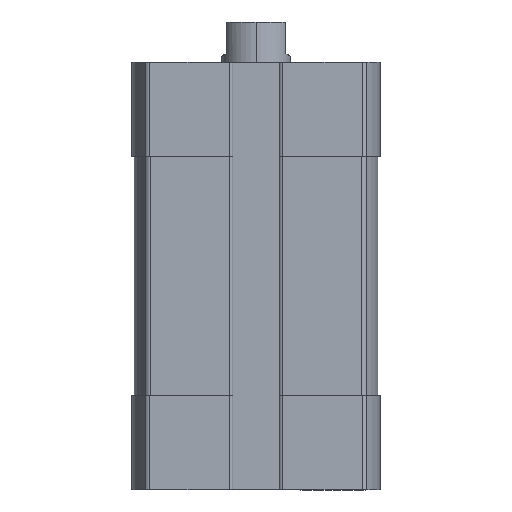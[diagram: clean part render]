
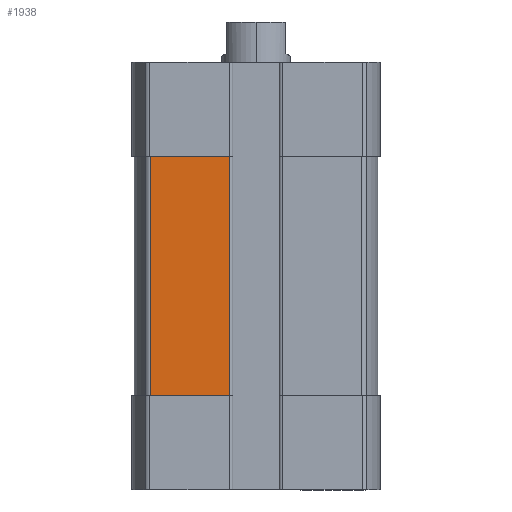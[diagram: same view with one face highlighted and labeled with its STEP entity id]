
A CAD part, left-side view. The second image highlights one B-rep face of the part: STEP entity #1938.
In plain terms, the highlighted planar face has unit normal (-1, 0, 0).
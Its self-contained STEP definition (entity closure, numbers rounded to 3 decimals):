
#521 = VERTEX_POINT ( 'NONE', #7103 ) ;
#567 = LINE ( 'NONE', #1571, #7102 ) ;
#625 = PLANE ( 'NONE',  #7949 ) ;
#735 = CARTESIAN_POINT ( 'NONE',  ( -14.25, 3.1, -39. ) ) ;
#1084 = DIRECTION ( 'NONE',  ( 0., -1., 0. ) ) ;
#1501 = DIRECTION ( 'NONE',  ( 0., 0., 1. ) ) ;
#1571 = CARTESIAN_POINT ( 'NONE',  ( -14.25, 12.347, -39. ) ) ;
#1938 = ADVANCED_FACE ( 'NONE', ( #8196 ), #625, .T. ) ;
#2384 = ORIENTED_EDGE ( 'NONE', *, *, #8492, .T. ) ;
#2501 = LINE ( 'NONE', #735, #3047 ) ;
#2734 = ORIENTED_EDGE ( 'NONE', *, *, #5453, .T. ) ;
#2820 = CARTESIAN_POINT ( 'NONE',  ( -14.25, 12.347, -39. ) ) ;
#3047 = VECTOR ( 'NONE', #8685, 1000. ) ;
#3050 = LINE ( 'NONE', #2820, #7504 ) ;
#3204 = EDGE_LOOP ( 'NONE', ( #2734, #2384, #7325, #6427 ) ) ;
#3252 = CARTESIAN_POINT ( 'NONE',  ( -14.25, 12.347, -39. ) ) ;
#5137 = DIRECTION ( 'NONE',  ( 0., 0., -1. ) ) ;
#5229 = EDGE_CURVE ( 'NONE', #10446, #521, #567, .T. ) ;
#5453 = EDGE_CURVE ( 'NONE', #521, #5851, #3050, .T. ) ;
#5700 = LINE ( 'NONE', #5742, #5964 ) ;
#5742 = CARTESIAN_POINT ( 'NONE',  ( -14.25, 0., -11. ) ) ;
#5851 = VERTEX_POINT ( 'NONE', #9228 ) ;
#5880 = EDGE_CURVE ( 'NONE', #10627, #10446, #5700, .T. ) ;
#5964 = VECTOR ( 'NONE', #8385, 1000. ) ;
#6427 = ORIENTED_EDGE ( 'NONE', *, *, #5229, .T. ) ;
#6825 = DIRECTION ( 'NONE',  ( -1., 0., 0. ) ) ;
#7102 = VECTOR ( 'NONE', #5137, 1000. ) ;
#7103 = CARTESIAN_POINT ( 'NONE',  ( -14.25, 12.347, -39. ) ) ;
#7311 = CARTESIAN_POINT ( 'NONE',  ( -14.25, 12.347, -11. ) ) ;
#7325 = ORIENTED_EDGE ( 'NONE', *, *, #5880, .T. ) ;
#7504 = VECTOR ( 'NONE', #1084, 1000. ) ;
#7554 = CARTESIAN_POINT ( 'NONE',  ( -14.25, 3.1, -11. ) ) ;
#7949 = AXIS2_PLACEMENT_3D ( 'NONE', #3252, #6825, #1501 ) ;
#8196 = FACE_OUTER_BOUND ( 'NONE', #3204, .T. ) ;
#8385 = DIRECTION ( 'NONE',  ( 0., 1., 0. ) ) ;
#8492 = EDGE_CURVE ( 'NONE', #5851, #10627, #2501, .T. ) ;
#8685 = DIRECTION ( 'NONE',  ( 0., 0., 1. ) ) ;
#9228 = CARTESIAN_POINT ( 'NONE',  ( -14.25, 3.1, -39. ) ) ;
#10446 = VERTEX_POINT ( 'NONE', #7311 ) ;
#10627 = VERTEX_POINT ( 'NONE', #7554 ) ;
